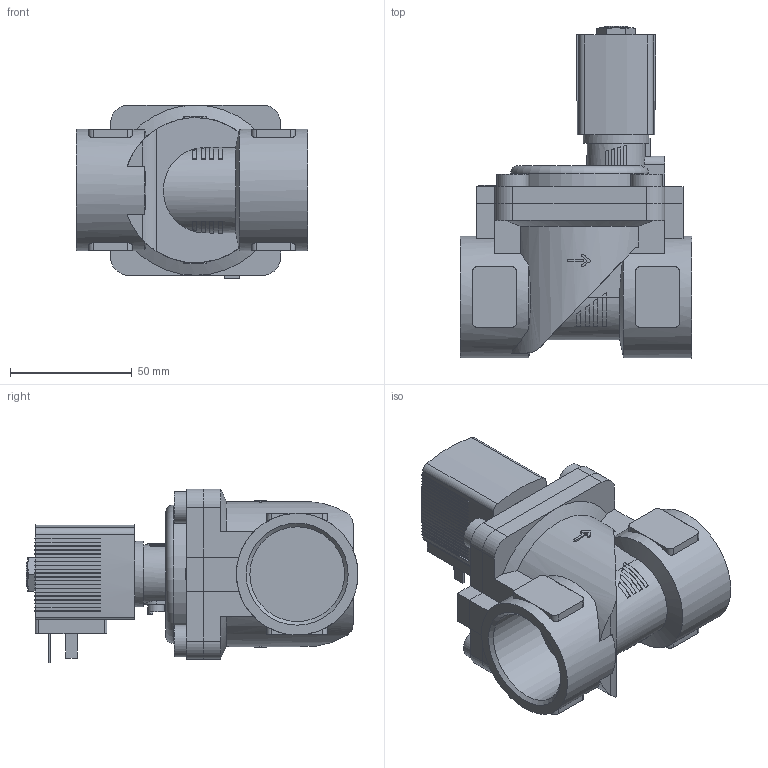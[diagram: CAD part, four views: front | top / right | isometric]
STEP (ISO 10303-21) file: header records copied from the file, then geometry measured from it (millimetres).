
FILE_DESCRIPTION(/* description */ ('STEP AP214'),/* implementation_level */ '2;1');
FILE_NAME(/* name */ '6281-241032-2_2-Way_Solenoid_Valve__Servo-assisted__General_Purpose',/* time_stamp */ '2024-06-17T15:05:04+02:00',/* author */ ('License CC BY-ND 4.0'),/* organization */ ('CADENAS'),/* preprocessor_version */ 'ST-DEVELOPER v19.3',/* originating_system */ 'PARTsolutions',/* authorisation */ ' ');
FILE_SCHEMA (('AUTOMOTIVE_DESIGN {1 0 10303 214 3 1 1}'));
Length unit declared in the file: millimetre
Products named in the file (4): 6281-241032-2/2-Way Solenoid Valve, Servo-assisted, General Purpose; 5281ev251MS2/2-Wege-Magnetventil mit Servomembran-Deckel   ; 6213-25G1_1/4MS-Gehaeuse-; AC10ex-5OO-Plan-Coil
Assembly tree (3 placements, depth 2):
  6281-241032-2/2-Way Solenoid Valve, Servo-assisted, General Purpose
    5281ev251MS2/2-Wege-Magnetventil mit Servomembran-Deckel   
    6213-25G1_1/4MS-Gehaeuse-
    AC10ex-5OO-Plan-Coil
Bounding box: 95 x 136.5 x 71.5 mm (x, y, z)
Volume: 309565.2 mm3; surface area: 61848.1 mm2
Topology: 3 solids, 3 shells, 549 faces, 1523 edges, 1010 vertices
Faces by surface type: plane 446, cylinder 87, cone 15, torus 1
Full cylindrical faces by diameter (mm): 2.013 x1, 6.8 x1, 9.74 x1, 13 x4, 27 x1, 38.952 x2, 50 x2
Entity records: 20207 total; most frequent: CARTESIAN_POINT 3309, ORIENTED_EDGE 2996, DIRECTION 2859, EDGE_CURVE 1498, LINE 1111, VECTOR 1111, VERTEX_POINT 1001, AXIS2_PLACEMENT_3D 874
